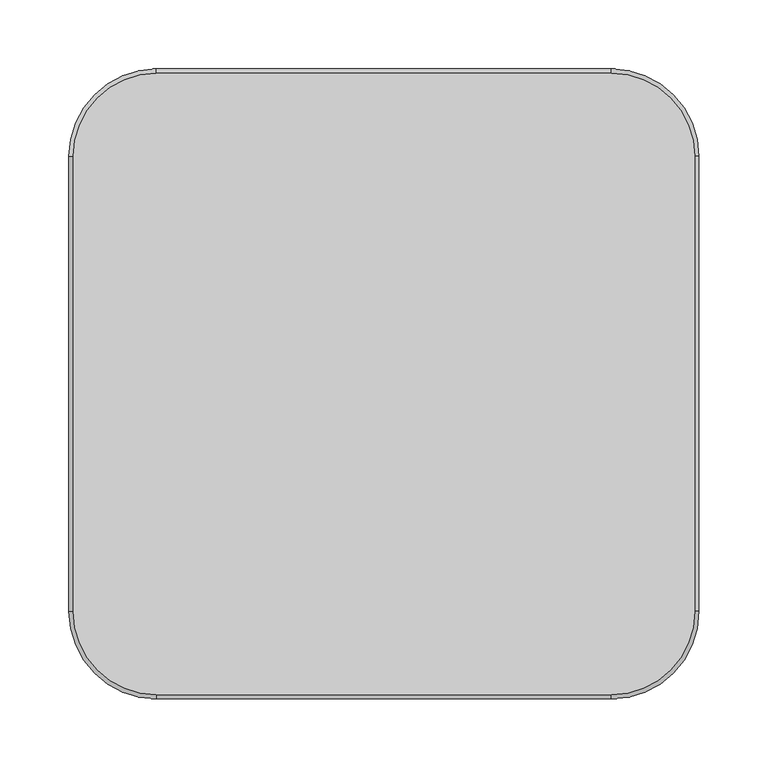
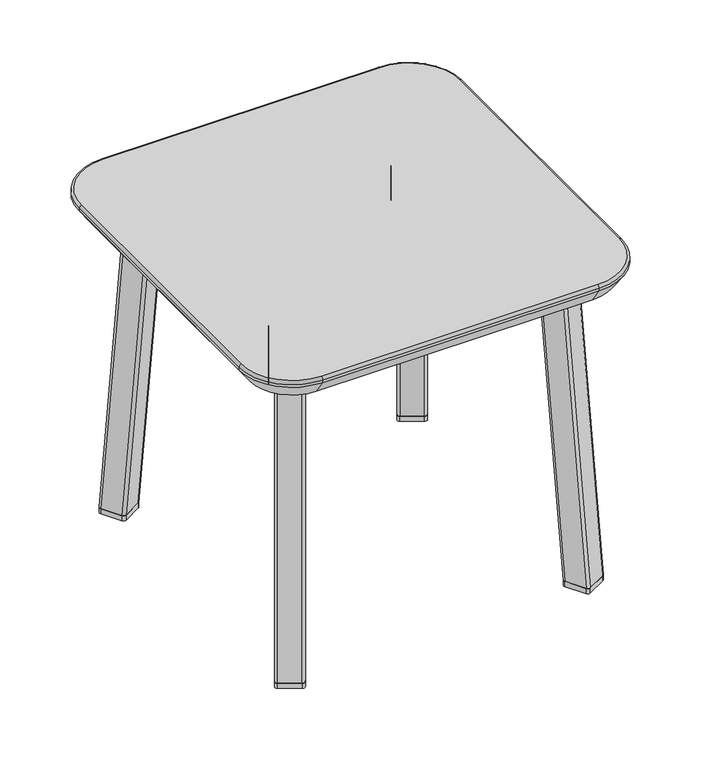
"""IFC4 building model written with IfcOpenShell, lengths in millimetres: furniture geometry, Stance_HC-Jensen-Occasional-Table : JETF181816-T."""

from ifc_helpers import new_model, si_unit, point, frame, frame_2d, origin, origin_with_axes, place, context, project, spatial, polyline, circle_curve, ellipse_curve, trimmed, segment, composite_curve, outline, extrude, source, transform, mapped, element, save
from ifc_brep_helpers import plane_surface, cylinder_surface, revolved_surface, extruded_surface, advanced_brep


def furniture_45480bbe(model_context):
    return source(origin(), model_context, "Body", "SolidModel", [
        extrude(outline(composite_curve([segment(polyline([(194.681574, -184.2321033), (172.6845247, -196.9321056)]), True, "CONTINUOUS"), segment(trimmed(circle_curve(frame_2d((171.0970247, -194.182475)), 3.175), [point((172.6845247, -196.9321056))], [point((168.347394, -195.769975))], False, "CARTESIAN"), True, "CONTINUOUS"), segment(polyline([(168.347394, -195.769975), (155.5983038, -173.687903)]), True, "CONTINUOUS"), segment(trimmed(circle_curve(frame_2d((158.3479345, -172.100403)), 3.175), [point((155.5983038, -173.687903))], [point((156.7604345, -169.3507723))], False, "CARTESIAN"), True, "CONTINUOUS"), segment(polyline([(156.7604345, -169.3507723), (178.7574838, -156.65077)]), True, "CONTINUOUS"), segment(trimmed(circle_curve(frame_2d((180.3449838, -159.4004007)), 3.175), [point((178.7574838, -156.65077))], [point((183.0946144, -157.8129007))], False, "CARTESIAN"), True, "CONTINUOUS"), segment(polyline([(183.0946144, -157.8129007), (195.8437046, -179.8949726)]), True, "CONTINUOUS"), segment(trimmed(circle_curve(frame_2d((193.094074, -181.4824726)), 3.175), [point((195.8437046, -179.8949726))], [point((194.681574, -184.2321033))], False, "CARTESIAN"), True, "CONTINUOUS")], self_intersect=False)), origin_with_axes(), (0.0, 0.0, 1.0), 6.35),
        extrude(outline(composite_curve([segment(polyline([(172.6845247, 196.9321056), (194.681574, 184.2321033)]), True, "CONTINUOUS"), segment(trimmed(circle_curve(frame_2d((193.094074, 181.4824726)), 3.175), [point((194.681574, 184.2321033))], [point((195.8437046, 179.8949726))], False, "CARTESIAN"), True, "CONTINUOUS"), segment(polyline([(195.8437046, 179.8949726), (183.0946144, 157.8129007)]), True, "CONTINUOUS"), segment(trimmed(circle_curve(frame_2d((180.3449838, 159.4004007)), 3.175), [point((183.0946144, 157.8129007))], [point((178.7574838, 156.65077))], False, "CARTESIAN"), True, "CONTINUOUS"), segment(polyline([(178.7574838, 156.65077), (156.7604345, 169.3507723)]), True, "CONTINUOUS"), segment(trimmed(circle_curve(frame_2d((158.3479345, 172.100403)), 3.175), [point((156.7604345, 169.3507723))], [point((155.5983038, 173.687903))], False, "CARTESIAN"), True, "CONTINUOUS"), segment(polyline([(155.5983038, 173.687903), (168.347394, 195.769975)]), True, "CONTINUOUS"), segment(trimmed(circle_curve(frame_2d((171.0970247, 194.182475)), 3.175), [point((168.347394, 195.769975))], [point((172.6845247, 196.9321056))], False, "CARTESIAN"), True, "CONTINUOUS")], self_intersect=False)), origin_with_axes(), (0.0, 0.0, 1.0), 6.35),
        advanced_brep(
        [(141.9120024, -143.6325373, 380.5094413), (140.7498717, -147.9696679, 380.5094413), (153.4989619, -170.0517399, 380.5094413), (157.8360926, -171.2138706, 380.5094413), (179.8331418, -158.5138683, 380.5094413), (180.9952725, -154.1767376, 380.5094413), (168.2461823, -132.0946656, 380.5094413), (163.9090516, -130.932535, 380.5094413), (156.7604345, -169.3507723, 6.35), (178.7574838, -156.65077, 6.35), (183.0946144, -157.8129007, 6.35), (195.8437046, -179.8949726, 6.35), (194.681574, -184.2321033, 6.35), (172.6845247, -196.9321056, 6.35), (168.347394, -195.769975, 6.35), (155.5983038, -173.687903, 6.35)],
        [
            (0, 1, circle_curve(frame((143.4995024, -146.3821679, 380.5094413), z_axis=(0.0, 0.0, 1.0), x_axis=(-1.0, 0.0, 0.0)), 3.175)),
            (1, 2),
            (2, 3, circle_curve(frame((156.2485926, -168.4642399, 380.5094413), z_axis=(0.0, 0.0, 1.0), x_axis=(-1.0, 0.0, 0.0)), 3.175)),
            (3, 4),
            (4, 5, circle_curve(frame((178.2456418, -155.7642376, 380.5094413), z_axis=(0.0, 0.0, 1.0), x_axis=(-1.0, 0.0, 0.0)), 3.175)),
            (5, 6),
            (6, 7, circle_curve(frame((165.4965516, -133.6821656, 380.5094413), z_axis=(0.0, 0.0, 1.0), x_axis=(-1.0, 0.0, 0.0)), 3.175)),
            (7, 0),
            (8, 9),
            (9, 10, circle_curve(frame((180.3449838, -159.4004007, 6.35), z_axis=(0.0, 0.0, -1.0), x_axis=(-1.0, 0.0, 0.0)), 3.175)),
            (10, 11),
            (11, 12, circle_curve(frame((193.094074, -181.4824726, 6.35), z_axis=(0.0, 0.0, -1.0), x_axis=(-1.0, 0.0, 0.0)), 3.175)),
            (12, 13),
            (13, 14, circle_curve(frame((171.0970247, -194.182475, 6.35), z_axis=(0.0, 0.0, -1.0), x_axis=(-1.0, 0.0, 0.0)), 3.175)),
            (14, 15),
            (15, 8, circle_curve(frame((158.3479345, -172.100403, 6.35), z_axis=(0.0, 0.0, -1.0), x_axis=(-1.0, 0.0, 0.0)), 3.175)),
            (15, 1),
            (0, 8),
            (14, 2),
            (13, 3),
            (12, 4),
            (11, 5),
            (10, 6),
            (9, 7),
        ],
        [
            plane_surface(frame((160.8725721, -151.0732028, 380.5094413), z_axis=(0.0, 0.0, 1.0000000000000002), x_axis=(0.8660254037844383, 0.5000000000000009, 0.0))),
            plane_surface(frame((175.7210042, -176.7914378, 6.35), z_axis=(0.0, 0.0, -1.0000000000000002), x_axis=(0.8660254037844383, 0.5000000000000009, 0.0))),
            extruded_surface(trimmed(circle_curve(frame((143.4995024, -146.3821679, 380.5094413), z_axis=(0.0, 0.0, -1.0), x_axis=(-1.0, 0.0, 0.0)), 3.175), [point((140.7498717, -147.9696679, 380.5094413))], [point((141.9120024, -143.6325373, 380.5094413))], True, "CARTESIAN"), (14.848432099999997, -25.718235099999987, -374.15944129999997), 375.3361041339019),
            plane_surface(frame((161.9728489, -184.728939, 6.35), z_axis=(-0.8660254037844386, -0.5000000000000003, -5.1142628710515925e-09), x_axis=(-0.5000000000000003, 0.8660254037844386, 0.0))),
            extruded_surface(trimmed(circle_curve(frame((156.2485926, -168.4642399, 380.5094413), z_axis=(0.0, 0.0, -1.0), x_axis=(-1.0, 0.0, 0.0)), 3.175), [point((157.8360926, -171.2138706, 380.5094413))], [point((153.4989619, -170.0517399, 380.5094413))], True, "CARTESIAN"), (14.848432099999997, -25.718235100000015, -374.15944129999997), 375.3361041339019),
            plane_surface(frame((183.6830493, -190.5821045, 6.35), z_axis=(0.4984325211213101, -0.863310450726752, 0.07912071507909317), x_axis=(-0.8660254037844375, -0.500000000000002, 0.0))),
            extruded_surface(trimmed(circle_curve(frame((178.2456418, -155.7642376, 380.5094413), z_axis=(0.0, 0.0, -1.0), x_axis=(-1.0, 0.0, 0.0)), 3.175), [point((180.9952725, -154.1767376, 380.5094413))], [point((179.8331418, -158.5138683, 380.5094413))], True, "CARTESIAN"), (14.848432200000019, -25.718234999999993, -374.15944129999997), 375.3361041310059),
            plane_surface(frame((189.4691595, -168.8539367, 6.35), z_axis=(0.866025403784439, 0.4999999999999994, 5.114262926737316e-09), x_axis=(0.4999999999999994, -0.866025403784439, 0.0))),
            extruded_surface(trimmed(circle_curve(frame((165.4965516, -133.6821656, 380.5094413), z_axis=(0.0, 0.0, -1.0), x_axis=(-1.0, 0.0, 0.0)), 3.175), [point((163.9090516, -130.932535, 380.5094413))], [point((168.2461823, -132.0946656, 380.5094413))], True, "CARTESIAN"), (14.84843219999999, -25.718235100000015, -374.15944129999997), 375.336104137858),
            plane_surface(frame((167.7589591, -163.0007712, 6.35), z_axis=(-0.49843252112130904, 0.8633104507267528, -0.07912071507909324), x_axis=(0.8660254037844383, 0.5000000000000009, 0.0))),
        ],
        [
            (0, [[1, 2, 3, 4, 5, 6, 7, 8]]),
            (1, [[9, 10, 11, 12, 13, 14, 15, 16]]),
            (2, [[17, -1, 18, -16]]),
            (3, [[19, -2, -17, -15]]),
            (4, [[20, -3, -19, -14]]),
            (5, [[21, -4, -20, -13]]),
            (6, [[22, -5, -21, -12]]),
            (7, [[23, -6, -22, -11]]),
            (8, [[24, -7, -23, -10]]),
            (9, [[-18, -8, -24, -9]]),
        ],
    ),
        extrude(outline(polyline([(200.7820372, 175.8326548), (99.5982292, 0.0), (200.7820372, -175.8326548), (162.3068508, -197.9733992), (48.3820372, 0.0), (162.3068508, 197.9733992), (200.7820372, 175.8326548)])), frame((0.0, 0.0, 380.5094413), z_axis=(0.0, 0.0, 1.0), x_axis=(1.0, 0.0, 0.0)), (0.0, 0.0, 1.0), 3.1749879),
        advanced_brep(
        [(141.9120024, 143.6325373, 380.5094413), (163.9090516, 130.932535, 380.5094413), (168.2461823, 132.0946656, 380.5094413), (180.9952725, 154.1767376, 380.5094413), (179.8331418, 158.5138683, 380.5094413), (157.8360926, 171.2138706, 380.5094413), (153.4989619, 170.0517399, 380.5094413), (140.7498717, 147.9696679, 380.5094413), (156.7604345, 169.3507723, 6.35), (155.5983038, 173.687903, 6.35), (168.347394, 195.769975, 6.35), (172.6845247, 196.9321056, 6.35), (194.681574, 184.2321033, 6.35), (195.8437046, 179.8949726, 6.35), (183.0946144, 157.8129007, 6.35), (178.7574838, 156.65077, 6.35)],
        [
            (0, 1),
            (1, 2, circle_curve(frame((165.4965516, 133.6821656, 380.5094413), z_axis=(0.0, 0.0, 1.0), x_axis=(-1.0, 0.0, 0.0)), 3.175)),
            (2, 3),
            (3, 4, circle_curve(frame((178.2456418, 155.7642376, 380.5094413), z_axis=(0.0, 0.0, 1.0), x_axis=(-1.0, 0.0, 0.0)), 3.175)),
            (4, 5),
            (5, 6, circle_curve(frame((156.2485926, 168.4642399, 380.5094413), z_axis=(0.0, 0.0, 1.0), x_axis=(-1.0, 0.0, 0.0)), 3.175)),
            (6, 7),
            (7, 0, circle_curve(frame((143.4995024, 146.3821679, 380.5094413), z_axis=(0.0, 0.0, 1.0), x_axis=(-1.0, 0.0, 0.0)), 3.175)),
            (8, 9, circle_curve(frame((158.3479345, 172.100403, 6.35), z_axis=(0.0, 0.0, -1.0), x_axis=(-1.0, 0.0, 0.0)), 3.175)),
            (9, 10),
            (10, 11, circle_curve(frame((171.0970247, 194.182475, 6.35), z_axis=(0.0, 0.0, -1.0), x_axis=(-1.0, 0.0, 0.0)), 3.175)),
            (11, 12),
            (12, 13, circle_curve(frame((193.094074, 181.4824726, 6.35), z_axis=(0.0, 0.0, -1.0), x_axis=(-1.0, 0.0, 0.0)), 3.175)),
            (13, 14),
            (14, 15, circle_curve(frame((180.3449838, 159.4004007, 6.35), z_axis=(0.0, 0.0, -1.0), x_axis=(-1.0, 0.0, 0.0)), 3.175)),
            (15, 8),
            (8, 0),
            (7, 9),
            (6, 10),
            (5, 11),
            (4, 12),
            (3, 13),
            (2, 14),
            (1, 15),
        ],
        [
            plane_surface(frame((160.8725721, 151.0732028, 380.5094413), z_axis=(0.0, 0.0, 1.0), x_axis=(-0.8660254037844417, 0.49999999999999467, 0.0))),
            plane_surface(frame((175.7210042, 176.7914378, 6.35), z_axis=(0.0, 0.0, -1.0), x_axis=(-0.8660254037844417, 0.49999999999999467, 0.0))),
            extruded_surface(trimmed(circle_curve(frame((143.4995024, 146.3821679, 380.5094413), z_axis=(0.0, 0.0, -1.0), x_axis=(-1.0, 0.0, 0.0)), 3.175), [point((141.9120024, 143.6325373, 380.5094413))], [point((140.7498717, 147.9696679, 380.5094413))], True, "CARTESIAN"), (14.848432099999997, 25.718235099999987, -374.15944129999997), 375.3361041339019),
            plane_surface(frame((161.9728489, 184.728939, 6.35), z_axis=(-0.8660254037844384, 0.5000000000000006, -5.114262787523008e-09), x_axis=(0.5000000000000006, 0.8660254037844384, 0.0))),
            extruded_surface(trimmed(circle_curve(frame((156.2485926, 168.4642399, 380.5094413), z_axis=(0.0, 0.0, -1.0), x_axis=(-1.0, 0.0, 0.0)), 3.175), [point((153.4989619, 170.0517399, 380.5094413))], [point((157.8360926, 171.2138706, 380.5094413))], True, "CARTESIAN"), (14.848432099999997, 25.718235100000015, -374.15944129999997), 375.3361041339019),
            plane_surface(frame((183.6830493, 190.5821045, 6.35), z_axis=(0.4984325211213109, 0.8633104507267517, 0.07912071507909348), x_axis=(0.8660254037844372, -0.5000000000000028, 0.0))),
            extruded_surface(trimmed(circle_curve(frame((178.2456418, 155.7642376, 380.5094413), z_axis=(0.0, 0.0, -1.0), x_axis=(-1.0, 0.0, 0.0)), 3.175), [point((179.8331418, 158.5138683, 380.5094413))], [point((180.9952725, 154.1767376, 380.5094413))], True, "CARTESIAN"), (14.848432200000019, 25.718234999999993, -374.15944129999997), 375.3361041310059),
            plane_surface(frame((189.4691595, 168.8539367, 6.35), z_axis=(0.8660254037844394, -0.49999999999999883, 5.1142628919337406e-09), x_axis=(-0.49999999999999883, -0.8660254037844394, 0.0))),
            extruded_surface(trimmed(circle_curve(frame((165.4965516, 133.6821656, 380.5094413), z_axis=(0.0, 0.0, -1.0), x_axis=(-1.0, 0.0, 0.0)), 3.175), [point((168.2461823, 132.0946656, 380.5094413))], [point((163.9090516, 130.932535, 380.5094413))], True, "CARTESIAN"), (14.84843219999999, 25.718235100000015, -374.15944129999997), 375.336104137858),
            plane_surface(frame((167.7589591, 163.0007712, 6.35), z_axis=(-0.4984325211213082, -0.8633104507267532, -0.07912071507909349), x_axis=(-0.8660254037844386, 0.5000000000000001, 0.0))),
        ],
        [
            (0, [[1, 2, 3, 4, 5, 6, 7, 8]]),
            (1, [[9, 10, 11, 12, 13, 14, 15, 16]]),
            (2, [[17, -8, 18, -9]]),
            (3, [[-18, -7, 19, -10]]),
            (4, [[-19, -6, 20, -11]]),
            (5, [[-20, -5, 21, -12]]),
            (6, [[-21, -4, 22, -13]]),
            (7, [[-22, -3, 23, -14]]),
            (8, [[-23, -2, 24, -15]]),
            (9, [[-24, -1, -17, -16]]),
        ],
    ),
        extrude(outline(composite_curve([segment(trimmed(circle_curve(frame_2d((-191.690244, -181.4824726)), 3.175), [point((-193.277744, -184.2321033))], [point((-194.4398747, -179.8949726))], False, "CARTESIAN"), True, "CONTINUOUS"), segment(polyline([(-194.4398747, -179.8949726), (-181.6907845, -157.8129007)]), True, "CONTINUOUS"), segment(trimmed(circle_curve(frame_2d((-178.9411538, -159.4004007)), 3.175), [point((-181.6907845, -157.8129007))], [point((-177.3536538, -156.65077))], False, "CARTESIAN"), True, "CONTINUOUS"), segment(polyline([(-177.3536538, -156.65077), (-155.3566046, -169.3507723)]), True, "CONTINUOUS"), segment(trimmed(circle_curve(frame_2d((-156.9441046, -172.100403)), 3.175), [point((-155.3566046, -169.3507723))], [point((-154.1944739, -173.687903))], False, "CARTESIAN"), True, "CONTINUOUS"), segment(polyline([(-154.1944739, -173.687903), (-166.9435641, -195.769975)]), True, "CONTINUOUS"), segment(trimmed(circle_curve(frame_2d((-169.6931948, -194.182475)), 3.175), [point((-166.9435641, -195.769975))], [point((-171.2806948, -196.9321056))], False, "CARTESIAN"), True, "CONTINUOUS"), segment(polyline([(-171.2806948, -196.9321056), (-193.277744, -184.2321033)]), True, "CONTINUOUS")], self_intersect=False)), origin_with_axes(), (0.0, 0.0, 1.0), 6.35),
        extrude(outline(composite_curve([segment(trimmed(circle_curve(frame_2d((-169.6931948, 194.182475)), 3.175), [point((-171.2806948, 196.9321056))], [point((-166.9435641, 195.769975))], False, "CARTESIAN"), True, "CONTINUOUS"), segment(polyline([(-166.9435641, 195.769975), (-154.1944739, 173.687903)]), True, "CONTINUOUS"), segment(trimmed(circle_curve(frame_2d((-156.9441046, 172.100403)), 3.175), [point((-154.1944739, 173.687903))], [point((-155.3566046, 169.3507723))], False, "CARTESIAN"), True, "CONTINUOUS"), segment(polyline([(-155.3566046, 169.3507723), (-177.3536538, 156.65077)]), True, "CONTINUOUS"), segment(trimmed(circle_curve(frame_2d((-178.9411538, 159.4004007)), 3.175), [point((-177.3536538, 156.65077))], [point((-181.6907845, 157.8129007))], False, "CARTESIAN"), True, "CONTINUOUS"), segment(polyline([(-181.6907845, 157.8129007), (-194.4398747, 179.8949726)]), True, "CONTINUOUS"), segment(trimmed(circle_curve(frame_2d((-191.690244, 181.4824726)), 3.175), [point((-194.4398747, 179.8949726))], [point((-193.277744, 184.2321033))], False, "CARTESIAN"), True, "CONTINUOUS"), segment(polyline([(-193.277744, 184.2321033), (-171.2806948, 196.9321056)]), True, "CONTINUOUS")], self_intersect=False)), origin_with_axes(), (0.0, 0.0, 1.0), 6.35),
        advanced_brep(
        [(-140.5081724, -143.6325373, 380.5094413), (-162.5052217, -130.932535, 380.5094413), (-166.8423524, -132.0946656, 380.5094413), (-179.5914426, -154.1767376, 380.5094413), (-178.4293119, -158.5138683, 380.5094413), (-156.4322626, -171.2138706, 380.5094413), (-152.095132, -170.0517399, 380.5094413), (-139.3460418, -147.9696679, 380.5094413), (-155.3566046, -169.3507723, 6.35), (-154.1944739, -173.687903, 6.35), (-166.9435641, -195.769975, 6.35), (-171.2806948, -196.9321056, 6.35), (-193.277744, -184.2321033, 6.35), (-194.4398747, -179.8949726, 6.35), (-181.6907845, -157.8129007, 6.35), (-177.3536538, -156.65077, 6.35)],
        [
            (0, 1),
            (1, 2, circle_curve(frame((-164.0927217, -133.6821656, 380.5094413), z_axis=(0.0, 0.0, 1.0), x_axis=(1.0, 0.0, 0.0)), 3.175)),
            (2, 3),
            (3, 4, circle_curve(frame((-176.8418119, -155.7642376, 380.5094413), z_axis=(0.0, 0.0, 1.0), x_axis=(1.0, 0.0, 0.0)), 3.175)),
            (4, 5),
            (5, 6, circle_curve(frame((-154.8447626, -168.4642399, 380.5094413), z_axis=(0.0, 0.0, 1.0), x_axis=(1.0, 0.0, 0.0)), 3.175)),
            (6, 7),
            (7, 0, circle_curve(frame((-142.0956724, -146.3821679, 380.5094413), z_axis=(0.0, 0.0, 1.0), x_axis=(1.0, 0.0, 0.0)), 3.175)),
            (8, 9, circle_curve(frame((-156.9441046, -172.100403, 6.35), z_axis=(0.0, 0.0, -1.0), x_axis=(1.0, 0.0, 0.0)), 3.175)),
            (9, 10),
            (10, 11, circle_curve(frame((-169.6931948, -194.182475, 6.35), z_axis=(0.0, 0.0, -1.0), x_axis=(1.0, 0.0, 0.0)), 3.175)),
            (11, 12),
            (12, 13, circle_curve(frame((-191.690244, -181.4824726, 6.35), z_axis=(0.0, 0.0, -1.0), x_axis=(1.0, 0.0, 0.0)), 3.175)),
            (13, 14),
            (14, 15, circle_curve(frame((-178.9411538, -159.4004007, 6.35), z_axis=(0.0, 0.0, -1.0), x_axis=(1.0, 0.0, 0.0)), 3.175)),
            (15, 8),
            (8, 0),
            (7, 9),
            (6, 10),
            (5, 11),
            (4, 12),
            (3, 13),
            (2, 14),
            (1, 15),
        ],
        [
            plane_surface(frame((-159.4687422, -151.0732028, 380.5094413), z_axis=(0.0, 0.0, 1.0000000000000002), x_axis=(-0.8660254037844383, 0.5000000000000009, 0.0))),
            plane_surface(frame((-174.3171743, -176.7914378, 6.35), z_axis=(0.0, 0.0, -1.0000000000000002), x_axis=(-0.8660254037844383, 0.5000000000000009, 0.0))),
            extruded_surface(trimmed(circle_curve(frame((-156.9441046, -172.100403, 6.35), z_axis=(0.0, 0.0, 1.0), x_axis=(1.0, 0.0, 0.0)), 3.175), [point((-154.1944739, -173.687903, 6.35))], [point((-155.3566046, -169.3507723, 6.35))], True, "CARTESIAN"), (14.84843219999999, 25.718235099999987, 374.15944129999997), 375.336104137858),
            plane_surface(frame((-160.569019, -184.728939, 6.35), z_axis=(0.8660254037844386, -0.5000000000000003, -5.1142628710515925e-09), x_axis=(0.5000000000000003, 0.8660254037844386, 0.0))),
            extruded_surface(trimmed(circle_curve(frame((-169.6931948, -194.182475, 6.35), z_axis=(0.0, 0.0, 1.0), x_axis=(1.0, 0.0, 0.0)), 3.175), [point((-171.2806948, -196.9321056, 6.35))], [point((-166.9435641, -195.769975, 6.35))], True, "CARTESIAN"), (14.84843219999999, 25.718235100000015, 374.15944129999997), 375.336104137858),
            plane_surface(frame((-182.2792194, -190.5821045, 6.35), z_axis=(-0.4984325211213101, -0.863310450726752, 0.07912071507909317), x_axis=(0.8660254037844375, -0.500000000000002, 0.0))),
            extruded_surface(trimmed(circle_curve(frame((-191.690244, -181.4824726, 6.35), z_axis=(0.0, 0.0, 1.0), x_axis=(1.0, 0.0, 0.0)), 3.175), [point((-194.4398747, -179.8949726, 6.35))], [point((-193.277744, -184.2321033, 6.35))], True, "CARTESIAN"), (14.848432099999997, 25.718234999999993, 374.15944129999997), 375.3361041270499),
            plane_surface(frame((-188.0653296, -168.8539367, 6.35), z_axis=(-0.866025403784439, 0.4999999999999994, 5.114262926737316e-09), x_axis=(-0.4999999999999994, -0.866025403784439, 0.0))),
            extruded_surface(trimmed(circle_curve(frame((-178.9411538, -159.4004007, 6.35), z_axis=(0.0, 0.0, 1.0), x_axis=(1.0, 0.0, 0.0)), 3.175), [point((-177.3536538, -156.65077, 6.35))], [point((-181.6907845, -157.8129007, 6.35))], True, "CARTESIAN"), (14.848432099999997, 25.718235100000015, 374.15944129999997), 375.3361041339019),
            plane_surface(frame((-166.3551292, -163.0007712, 6.35), z_axis=(0.49843252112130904, 0.8633104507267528, -0.07912071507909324), x_axis=(-0.8660254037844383, 0.5000000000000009, 0.0))),
        ],
        [
            (0, [[1, 2, 3, 4, 5, 6, 7, 8]]),
            (1, [[9, 10, 11, 12, 13, 14, 15, 16]]),
            (2, [[-9, 17, -8, 18]]),
            (3, [[-10, -18, -7, 19]]),
            (4, [[-11, -19, -6, 20]]),
            (5, [[-12, -20, -5, 21]]),
            (6, [[-13, -21, -4, 22]]),
            (7, [[-14, -22, -3, 23]]),
            (8, [[-15, -23, -2, 24]]),
            (9, [[-16, -24, -1, -17]]),
        ],
    ),
        extrude(outline(polyline([(-199.3782073, 175.8326548), (-160.9030209, 197.9733992), (-46.9782073, 0.0), (-160.9030209, -197.9733992), (-199.3782073, -175.8326548), (-98.1943993, 0.0), (-199.3782073, 175.8326548)])), frame((0.0, 0.0, 380.5094413), z_axis=(0.0, 0.0, 1.0), x_axis=(1.0, 0.0, 0.0)), (0.0, 0.0, 1.0), 3.1749879),
        advanced_brep(
        [(-140.5081724, 143.6325373, 380.5094413), (-139.3460418, 147.9696679, 380.5094413), (-152.095132, 170.0517399, 380.5094413), (-156.4322626, 171.2138706, 380.5094413), (-178.4293119, 158.5138683, 380.5094413), (-179.5914426, 154.1767376, 380.5094413), (-166.8423524, 132.0946656, 380.5094413), (-162.5052217, 130.932535, 380.5094413), (-155.3566046, 169.3507723, 6.35), (-177.3536538, 156.65077, 6.35), (-181.6907845, 157.8129007, 6.35), (-194.4398747, 179.8949726, 6.35), (-193.277744, 184.2321033, 6.35), (-171.2806948, 196.9321056, 6.35), (-166.9435641, 195.769975, 6.35), (-154.1944739, 173.687903, 6.35)],
        [
            (0, 1, circle_curve(frame((-142.0956724, 146.3821679, 380.5094413), z_axis=(0.0, 0.0, 1.0), x_axis=(1.0, 0.0, 0.0)), 3.175)),
            (1, 2),
            (2, 3, circle_curve(frame((-154.8447626, 168.4642399, 380.5094413), z_axis=(0.0, 0.0, 1.0), x_axis=(1.0, 0.0, 0.0)), 3.175)),
            (3, 4),
            (4, 5, circle_curve(frame((-176.8418119, 155.7642376, 380.5094413), z_axis=(0.0, 0.0, 1.0), x_axis=(1.0, 0.0, 0.0)), 3.175)),
            (5, 6),
            (6, 7, circle_curve(frame((-164.0927217, 133.6821656, 380.5094413), z_axis=(0.0, 0.0, 1.0), x_axis=(1.0, 0.0, 0.0)), 3.175)),
            (7, 0),
            (8, 9),
            (9, 10, circle_curve(frame((-178.9411538, 159.4004007, 6.35), z_axis=(0.0, 0.0, -1.0), x_axis=(1.0, 0.0, 0.0)), 3.175)),
            (10, 11),
            (11, 12, circle_curve(frame((-191.690244, 181.4824726, 6.35), z_axis=(0.0, 0.0, -1.0), x_axis=(1.0, 0.0, 0.0)), 3.175)),
            (12, 13),
            (13, 14, circle_curve(frame((-169.6931948, 194.182475, 6.35), z_axis=(0.0, 0.0, -1.0), x_axis=(1.0, 0.0, 0.0)), 3.175)),
            (14, 15),
            (15, 8, circle_curve(frame((-156.9441046, 172.100403, 6.35), z_axis=(0.0, 0.0, -1.0), x_axis=(1.0, 0.0, 0.0)), 3.175)),
            (15, 1),
            (0, 8),
            (14, 2),
            (13, 3),
            (12, 4),
            (11, 5),
            (10, 6),
            (9, 7),
        ],
        [
            plane_surface(frame((-159.4687422, 151.0732028, 380.5094413), z_axis=(0.0, 0.0, 1.0), x_axis=(0.8660254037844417, 0.49999999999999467, 0.0))),
            plane_surface(frame((-174.3171743, 176.7914378, 6.35), z_axis=(0.0, 0.0, -1.0), x_axis=(0.8660254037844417, 0.49999999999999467, 0.0))),
            extruded_surface(trimmed(circle_curve(frame((-156.9441046, 172.100403, 6.35), z_axis=(0.0, 0.0, 1.0), x_axis=(1.0, 0.0, 0.0)), 3.175), [point((-155.3566046, 169.3507723, 6.35))], [point((-154.1944739, 173.687903, 6.35))], True, "CARTESIAN"), (14.84843219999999, -25.718235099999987, 374.15944129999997), 375.336104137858),
            plane_surface(frame((-160.569019, 184.728939, 6.35), z_axis=(0.8660254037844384, 0.5000000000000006, -5.114262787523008e-09), x_axis=(-0.5000000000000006, 0.8660254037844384, 0.0))),
            extruded_surface(trimmed(circle_curve(frame((-169.6931948, 194.182475, 6.35), z_axis=(0.0, 0.0, 1.0), x_axis=(1.0, 0.0, 0.0)), 3.175), [point((-166.9435641, 195.769975, 6.35))], [point((-171.2806948, 196.9321056, 6.35))], True, "CARTESIAN"), (14.84843219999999, -25.718235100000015, 374.15944129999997), 375.336104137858),
            plane_surface(frame((-182.2792194, 190.5821045, 6.35), z_axis=(-0.4984325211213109, 0.8633104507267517, 0.07912071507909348), x_axis=(-0.8660254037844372, -0.5000000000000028, 0.0))),
            extruded_surface(trimmed(circle_curve(frame((-191.690244, 181.4824726, 6.35), z_axis=(0.0, 0.0, 1.0), x_axis=(1.0, 0.0, 0.0)), 3.175), [point((-193.277744, 184.2321033, 6.35))], [point((-194.4398747, 179.8949726, 6.35))], True, "CARTESIAN"), (14.848432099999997, -25.718234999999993, 374.15944129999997), 375.3361041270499),
            plane_surface(frame((-188.0653296, 168.8539367, 6.35), z_axis=(-0.8660254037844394, -0.49999999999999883, 5.1142628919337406e-09), x_axis=(0.49999999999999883, -0.8660254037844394, 0.0))),
            extruded_surface(trimmed(circle_curve(frame((-178.9411538, 159.4004007, 6.35), z_axis=(0.0, 0.0, 1.0), x_axis=(1.0, 0.0, 0.0)), 3.175), [point((-181.6907845, 157.8129007, 6.35))], [point((-177.3536538, 156.65077, 6.35))], True, "CARTESIAN"), (14.848432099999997, -25.718235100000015, 374.15944129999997), 375.3361041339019),
            plane_surface(frame((-166.3551292, 163.0007712, 6.35), z_axis=(0.4984325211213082, -0.8633104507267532, -0.07912071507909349), x_axis=(0.8660254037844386, 0.5000000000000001, 0.0))),
        ],
        [
            (0, [[1, 2, 3, 4, 5, 6, 7, 8]]),
            (1, [[9, 10, 11, 12, 13, 14, 15, 16]]),
            (2, [[-16, 17, -1, 18]]),
            (3, [[-15, 19, -2, -17]]),
            (4, [[-14, 20, -3, -19]]),
            (5, [[-13, 21, -4, -20]]),
            (6, [[-12, 22, -5, -21]]),
            (7, [[-11, 23, -6, -22]]),
            (8, [[-10, 24, -7, -23]]),
            (9, [[-9, -18, -8, -24]]),
        ],
    ),
        advanced_brep(
        [(228.6, -165.1, 405.9094413), (165.1, -228.6, 405.9094413), (165.1, -228.6, 402.7343928), (228.6, -165.1, 402.7343928), (165.1, -215.2610718, 383.6844292), (215.2610718, -165.1, 383.6844292), (228.6, 165.1, 402.7343928), (228.6, 165.1, 405.9094413), (215.2610718, 165.1, 383.6844292), (165.1, 228.6, 402.7343928), (165.1, 228.6, 405.9094413), (165.1, 215.2610718, 383.6844292), (-165.1, 228.6, 402.7343928), (-165.1, 228.6, 405.9094413), (-165.1, 215.2610718, 383.6844292), (-228.6, 165.1, 402.7343928), (-228.6, 165.1, 405.9094413), (-215.2610718, 165.1, 383.6844292), (-228.6, -165.1, 402.7343928), (-228.6, -165.1, 405.9094413), (-215.2610718, -165.1, 383.6844292), (-165.1, -228.6, 402.7343928), (-165.1, -228.6, 405.9094413), (-165.1, -215.2610718, 383.6844292), (-225.425, 165.1, 409.0844413), (-225.425, -165.1, 409.0844413), (-165.1, -225.425, 409.0844413), (165.1, -225.425, 409.0844413), (225.425, -165.1, 409.0844413), (225.425, 165.1, 409.0844413), (165.1, 225.425, 409.0844413), (-165.1, 225.425, 409.0844413)],
        [
            (0, 1, circle_curve(frame((165.1, -165.1, 405.9094413), z_axis=(0.0, 0.0, -1.0), x_axis=(0.0, -1.0, 0.0)), 63.5)),
            (1, 2),
            (2, 3, circle_curve(frame((165.1, -165.1, 402.7343928), z_axis=(0.0, 0.0, 1.0), x_axis=(0.0, -1.0, 0.0)), 63.5)),
            (3, 0),
            (2, 4),
            (4, 5, circle_curve(frame((165.1, -165.1, 383.6844292), z_axis=(0.0, 0.0, 1.0), x_axis=(0.0, -1.0, 0.0)), 50.1610718)),
            (5, 3),
            (3, 6),
            (6, 7),
            (7, 0),
            (5, 8),
            (8, 6),
            (6, 9, circle_curve(frame((165.1, 165.1, 402.7343928), z_axis=(0.0, 0.0, 1.0), x_axis=(1.0, 0.0, 0.0)), 63.5)),
            (9, 10),
            (10, 7, circle_curve(frame((165.1, 165.1, 405.9094413), z_axis=(0.0, 0.0, -1.0), x_axis=(1.0, 0.0, 0.0)), 63.5)),
            (8, 11, circle_curve(frame((165.1, 165.1, 383.6844292), z_axis=(0.0, 0.0, 1.0), x_axis=(1.0, 0.0, 0.0)), 50.1610718)),
            (11, 9),
            (9, 12),
            (12, 13),
            (13, 10),
            (11, 14),
            (14, 12),
            (12, 15, circle_curve(frame((-165.1, 165.1, 402.7343928), z_axis=(0.0, 0.0, 1.0), x_axis=(0.0, 1.0, 0.0)), 63.5)),
            (15, 16),
            (16, 13, circle_curve(frame((-165.1, 165.1, 405.9094413), z_axis=(0.0, 0.0, -1.0), x_axis=(0.0, 1.0, 0.0)), 63.5)),
            (14, 17, circle_curve(frame((-165.1, 165.1, 383.6844292), z_axis=(0.0, 0.0, 1.0), x_axis=(0.0, 1.0, 0.0)), 50.1610718)),
            (17, 15),
            (15, 18),
            (18, 19),
            (19, 16),
            (17, 20),
            (20, 18),
            (18, 21, circle_curve(frame((-165.1, -165.1, 402.7343928), z_axis=(0.0, 0.0, 1.0), x_axis=(-1.0, 0.0, 0.0)), 63.5)),
            (21, 22),
            (22, 19, circle_curve(frame((-165.1, -165.1, 405.9094413), z_axis=(0.0, 0.0, -1.0), x_axis=(-1.0, 0.0, 0.0)), 63.5)),
            (20, 23, circle_curve(frame((-165.1, -165.1, 383.6844292), z_axis=(0.0, 0.0, 1.0), x_axis=(-1.0, 0.0, 0.0)), 50.1610718)),
            (23, 21),
            (1, 22),
            (21, 2),
            (24, 25),
            (25, 26, circle_curve(frame((-165.1, -165.1, 409.0844413), z_axis=(0.0, 0.0, 1.0), x_axis=(-1.0, 0.0, 0.0)), 60.325)),
            (26, 27),
            (27, 28, circle_curve(frame((165.1, -165.1, 409.0844413), z_axis=(0.0, 0.0, 1.0), x_axis=(0.0, -1.0, 0.0)), 60.325)),
            (28, 29),
            (29, 30, circle_curve(frame((165.1, 165.1, 409.0844413), z_axis=(0.0, 0.0, 1.0), x_axis=(1.0, 0.0, 0.0)), 60.325)),
            (30, 31),
            (31, 24, circle_curve(frame((-165.1, 165.1, 409.0844413), z_axis=(0.0, 0.0, 1.0), x_axis=(0.0, 1.0, 0.0)), 60.325)),
            (4, 23),
            (0, 28, circle_curve(frame((225.425, -165.1, 405.9094413), z_axis=(0.0, -1.0, 0.0), x_axis=(-1.0, 0.0, 0.0)), 3.175)),
            (27, 1, circle_curve(frame((165.1, -225.425, 405.9094413), z_axis=(1.0, 0.0, 0.0), x_axis=(0.0, 1.0, 0.0)), 3.175)),
            (7, 29, circle_curve(frame((225.425, 165.1, 405.9094413), z_axis=(0.0, -1.0, 0.0), x_axis=(-1.0, 0.0, 0.0)), 3.175)),
            (10, 30, circle_curve(frame((165.1, 225.425, 405.9094413), z_axis=(1.0, 0.0, 0.0), x_axis=(0.0, -1.0, 0.0)), 3.175)),
            (13, 31, circle_curve(frame((-165.1, 225.425, 405.9094413), z_axis=(1.0, 0.0, 0.0), x_axis=(0.0, -1.0, 0.0)), 3.175)),
            (16, 24, circle_curve(frame((-225.425, 165.1, 405.9094413), z_axis=(0.0, 1.0, 0.0), x_axis=(1.0, 0.0, 0.0)), 3.175)),
            (19, 25, circle_curve(frame((-225.425, -165.1, 405.9094413), z_axis=(0.0, 1.0, 0.0), x_axis=(1.0, 0.0, 0.0)), 3.175)),
            (22, 26, circle_curve(frame((-165.1, -225.425, 405.9094413), z_axis=(-1.0, 0.0, 0.0), x_axis=(0.0, 1.0, 0.0)), 3.175)),
        ],
        [
            cylinder_surface(frame((165.1, -165.1, 409.0844413), z_axis=(0.0, 0.0, 1.0), x_axis=(0.0, -1.0, 0.0)), 63.5),
            revolved_surface(polyline([(165.1, -215.2610718, 383.6844292), (165.1, -228.6, 402.7343928)]), (165.1, -165.1, 409.0844413), (0.0, 0.0, 1.0)),
            plane_surface(frame((228.6, -165.1, 402.7343928), z_axis=(1.0, 0.0, 0.0), x_axis=(0.0, 1.0, 0.0))),
            plane_surface(frame((215.2610718, -165.1, 383.6844292), z_axis=(0.8191520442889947, 0.0, -0.5735764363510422), x_axis=(0.0, 1.0, 0.0))),
            cylinder_surface(frame((165.1, 165.1, 409.0844413), z_axis=(0.0, 0.0, 1.0), x_axis=(1.0, 0.0, 0.0)), 63.5),
            revolved_surface(polyline([(215.2610718, 165.1, 383.6844292), (228.6, 165.1, 402.7343928)]), (165.1, 165.1, 409.0844413), (0.0, 0.0, 1.0)),
            plane_surface(frame((165.1, 228.6, 402.7343928), z_axis=(0.0, 1.0, 0.0), x_axis=(-1.0, 0.0, 0.0))),
            plane_surface(frame((165.1, 215.2610718, 383.6844292), z_axis=(0.0, 0.8191520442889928, -0.5735764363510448), x_axis=(-1.0, 0.0, 0.0))),
            cylinder_surface(frame((-165.1, 165.1, 409.0844413), z_axis=(0.0, 0.0, 1.0), x_axis=(0.0, 1.0, 0.0)), 63.5),
            revolved_surface(polyline([(-165.1, 215.2610718, 383.6844292), (-165.1, 228.6, 402.7343928)]), (-165.1, 165.1, 409.0844413), (0.0, 0.0, 1.0)),
            plane_surface(frame((-228.6, 165.1, 402.7343928), z_axis=(-1.0, 0.0, 0.0), x_axis=(0.0, -1.0, 0.0))),
            plane_surface(frame((-215.2610718, 165.1, 383.6844292), z_axis=(-0.8191520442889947, 0.0, -0.5735764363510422), x_axis=(0.0, -1.0, 0.0))),
            cylinder_surface(frame((-165.1, -165.1, 409.0844413), z_axis=(0.0, 0.0, 1.0), x_axis=(-1.0, 0.0, 0.0)), 63.5),
            revolved_surface(polyline([(-215.2610718, -165.1, 383.6844292), (-228.6, -165.1, 402.7343928)]), (-165.1, -165.1, 409.0844413), (0.0, 0.0, 1.0)),
            plane_surface(frame((-165.1, -228.6, 402.7343928), z_axis=(0.0, -1.0, 0.0), x_axis=(1.0, 0.0, 0.0))),
            plane_surface(frame((-165.1, -225.425, 409.0844413), z_axis=(0.0, 0.0, 1.0), x_axis=(1.0, 0.0, 0.0))),
            plane_surface(frame((-165.1, -203.2000061, 383.6844292), z_axis=(0.0, 0.0, -1.0), x_axis=(1.0, 0.0, 0.0))),
            plane_surface(frame((-165.1, -215.2610718, 383.6844292), z_axis=(0.0, -0.8191520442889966, -0.5735764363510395), x_axis=(1.0, 0.0, 0.0))),
            revolved_surface(trimmed(ellipse_curve(frame((165.1, -225.425, 405.9094413), z_axis=(-1.0, 0.0, 0.0), x_axis=(0.0, 1.0, 0.0)), 3.175, 3.175), [point((165.1, -228.6, 405.9094413))], [point((165.1, -225.425, 409.0844413))], True, "CARTESIAN"), (165.1, -165.1, 409.0844413), (0.0, 0.0, 1.0)),
            cylinder_surface(frame((225.425, -165.1, 405.9094413), z_axis=(0.0, -1.0, 0.0), x_axis=(-1.0, 0.0, 0.0)), 3.175),
            revolved_surface(trimmed(ellipse_curve(frame((225.425, 165.1, 405.9094413), z_axis=(0.0, -1.0, 0.0), x_axis=(-1.0, 0.0, 0.0)), 3.175, 3.175), [point((228.6, 165.1, 405.9094413))], [point((225.425, 165.1, 409.0844413))], True, "CARTESIAN"), (165.1, 165.1, 409.0844413), (0.0, 0.0, 1.0)),
            cylinder_surface(frame((165.1, 225.425, 405.9094413), z_axis=(1.0, 0.0, 0.0), x_axis=(0.0, -1.0, 0.0)), 3.175),
            revolved_surface(trimmed(ellipse_curve(frame((-165.1, 225.425, 405.9094413), z_axis=(1.0, 0.0, 0.0), x_axis=(0.0, -1.0, 0.0)), 3.175, 3.175), [point((-165.1, 228.6, 405.9094413))], [point((-165.1, 225.425, 409.0844413))], True, "CARTESIAN"), (-165.1, 165.1, 409.0844413), (0.0, 0.0, 1.0)),
            cylinder_surface(frame((-225.425, 165.1, 405.9094413), z_axis=(0.0, 1.0, 0.0), x_axis=(1.0, 0.0, 0.0)), 3.175),
            revolved_surface(trimmed(ellipse_curve(frame((-225.425, -165.1, 405.9094413), z_axis=(0.0, 1.0, 0.0), x_axis=(1.0, 0.0, 0.0)), 3.175, 3.175), [point((-228.6, -165.1, 405.9094413))], [point((-225.425, -165.1, 409.0844413))], True, "CARTESIAN"), (-165.1, -165.1, 409.0844413), (0.0, 0.0, 1.0)),
            cylinder_surface(frame((-165.1, -225.425, 405.9094413), z_axis=(-1.0, 0.0, 0.0), x_axis=(0.0, 1.0, 0.0)), 3.175),
        ],
        [
            (0, [[1, 2, 3, 4]]),
            (1, [[-3, 5, 6, 7]]),
            (2, [[-4, 8, 9, 10]]),
            (3, [[-7, 11, 12, -8]]),
            (4, [[-9, 13, 14, 15]]),
            (5, [[-12, 16, 17, -13]]),
            (6, [[-14, 18, 19, 20]]),
            (7, [[-17, 21, 22, -18]]),
            (8, [[-19, 23, 24, 25]]),
            (9, [[-22, 26, 27, -23]]),
            (10, [[-24, 28, 29, 30]]),
            (11, [[-27, 31, 32, -28]]),
            (12, [[-29, 33, 34, 35]]),
            (13, [[-32, 36, 37, -33]]),
            (14, [[-2, 38, -34, 39]]),
            (15, [[40, 41, 42, 43, 44, 45, 46, 47]]),
            (16, [[-6, 48, -36, -31, -26, -21, -16, -11]]),
            (17, [[-5, -39, -37, -48]]),
            (18, [[-1, 49, -43, 50]]),
            (19, [[-10, 51, -44, -49]]),
            (20, [[-15, 52, -45, -51]]),
            (21, [[-20, 53, -46, -52]]),
            (22, [[-25, 54, -47, -53]]),
            (23, [[-30, 55, -40, -54]]),
            (24, [[-35, 56, -41, -55]]),
            (25, [[-38, -50, -42, -56]]),
        ],
    ),
    ])


if __name__ == "__main__":
    model = new_model("IFC4")
    model_context = context("Model", 3, world=origin())
    ifc_project = project(units=[si_unit("LENGTHUNIT", "METRE", prefix="MILLI")], contexts=[model_context])
    site = spatial("IfcSite", under=ifc_project)
    building = spatial("IfcBuilding", under=site)
    placement = place(None, origin())
    furniture_shape = furniture_45480bbe(model_context)
    element("IfcFurniture", 1, ObjectType="Stance_HC-Jensen-Occasional-Table : JETF181816-T", at=placement, inside=building, context=model_context, shape_type="MappedRepresentation", body=[
        mapped(furniture_shape, transform((0.0, 0.0, 0.0), x_axis=(1.0, 0.0, 0.0), y_axis=(0.0, 1.0, 0.0), z_axis=(0.0, 0.0, 1.0))),
    ])
    save(model, "model.ifc")
